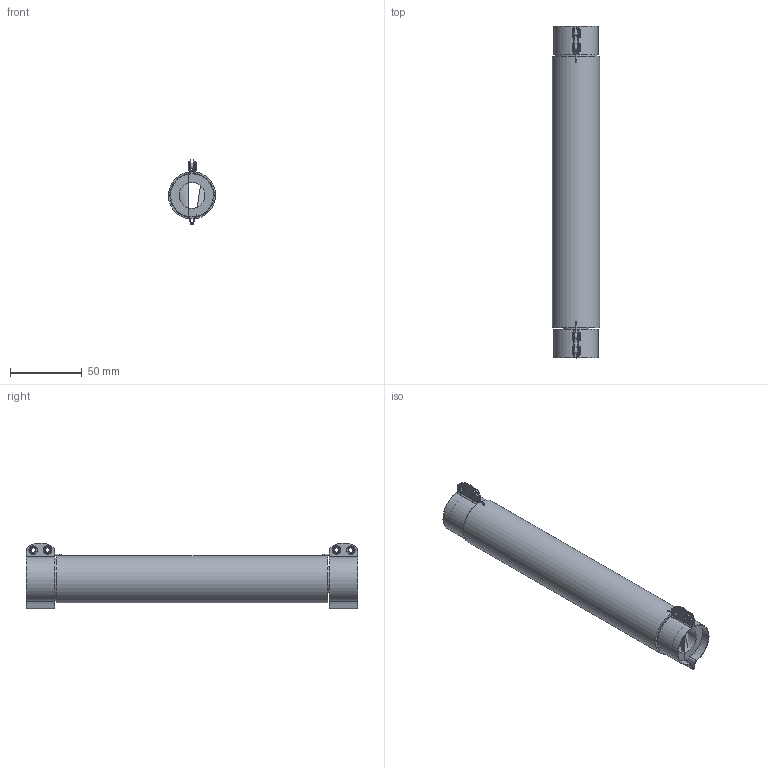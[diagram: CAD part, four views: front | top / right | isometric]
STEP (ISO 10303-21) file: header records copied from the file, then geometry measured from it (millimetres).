
FILE_DESCRIPTION(/* description */ (''),/* implementation_level */ '2;1');
FILE_NAME(/* name */ 'C:\_Vault\Dati\CATALOGO\RC-RS\TF\RS1220.stp',/* time_stamp */ '2014-01-29T14:42:53+01:00',/* author */ ('stefano'),/* organization */ (''),/* preprocessor_version */ 'ST-DEVELOPER v15.2',/* originating_system */ 'Autodesk Inventor 2014',/* authorisation */ '');
FILE_SCHEMA (('AUTOMOTIVE_DESIGN { 1 0 10303 214 3 1 1 }'));
Length unit declared in the file: millimetre
Products named in the file (1): RS1220
Bounding box: 32.97 x 232 x 46.13 mm (x, y, z)
Volume: 123181.1 mm3; surface area: 42707.3 mm2
Topology: 1 solids, 5 shells, 123 faces, 284 edges, 185 vertices
Faces by surface type: cylinder 53, plane 44, torus 18, bspline 8
Full cylindrical faces by diameter (mm): 0.4 x2, 0.8 x4, 3.2 x4, 4.2 x8, 6 x8, 18 x1, 30 x3, 33 x1
Entity records: 3887 total; most frequent: CARTESIAN_POINT 1087, DIRECTION 554, ORIENTED_EDGE 456, AXIS2_PLACEMENT_3D 239, EDGE_CURVE 228, EDGE_LOOP 208, VERTEX_POINT 176, CIRCLE 124
